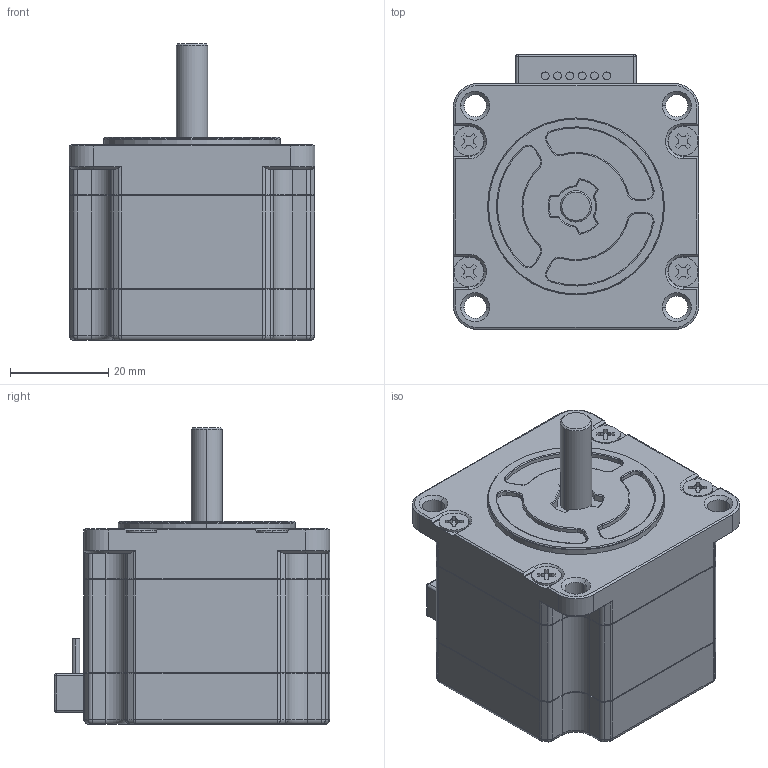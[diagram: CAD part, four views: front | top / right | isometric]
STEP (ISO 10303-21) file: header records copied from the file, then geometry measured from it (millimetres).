
FILE_DESCRIPTION (( 'STEP AP203' ), '1' );
FILE_NAME ('103H6701-0740.STEP', '2013-12-25T10:26:56', ( ' ' ), ( '' ), 'SwSTEP 2.0', 'SolidWorks 2012', '' );
FILE_SCHEMA (( 'CONFIG_CONTROL_DESIGN' ));
Length unit declared in the file: millimetre
Products named in the file (1): 103H6701-0740
Bounding box: 50 x 56 x 60.4 mm (x, y, z)
Volume: 91797 mm3; surface area: 13989.2 mm2
Topology: 1 solids, 1 shells, 606 faces, 1493 edges, 907 vertices
Faces by surface type: plane 220, cylinder 207, cone 111, torus 36, sphere 20, bspline 12
Entity records: 18192 total; most frequent: CARTESIAN_POINT 3634, DIRECTION 3186, ORIENTED_EDGE 2962, EDGE_CURVE 1481, AXIS2_PLACEMENT_3D 1198, VERTEX_POINT 907, LINE 790, VECTOR 790
